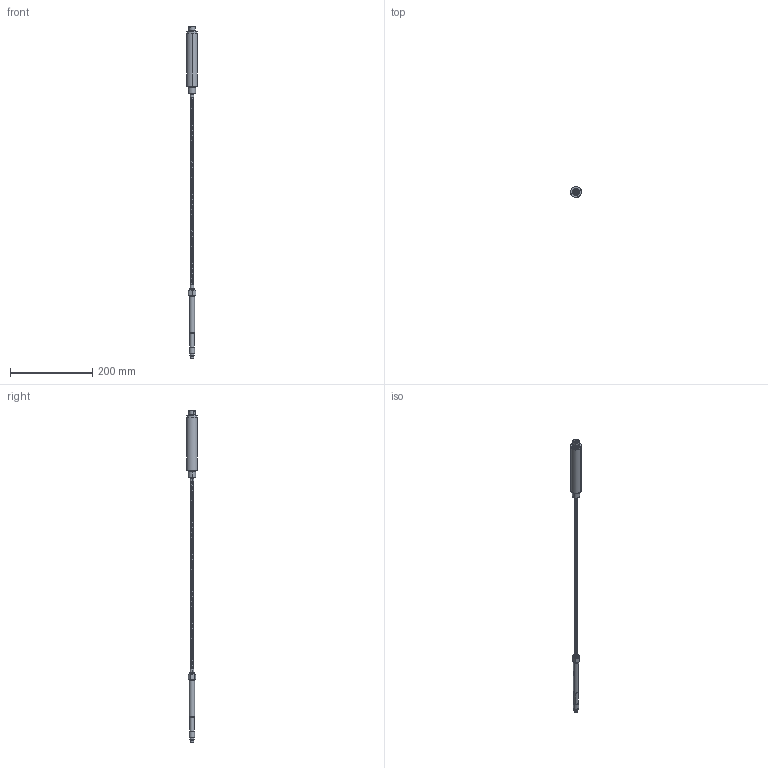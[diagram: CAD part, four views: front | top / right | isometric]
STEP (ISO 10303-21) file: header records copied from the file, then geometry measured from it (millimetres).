
FILE_DESCRIPTION (( 'STEP AP203' ), '1' );
FILE_NAME ('KE1-7-x-xxxx-1-4-D-x-P-E.STEP', '2021-02-10T09:18:36', ( '' ), ( '' ), 'SwSTEP 2.0', 'SolidWorks 2021', '' );
FILE_SCHEMA (( 'CONFIG_CONTROL_DESIGN' ));
Length unit declared in the file: millimetre
Products named in the file (1): KE1-7-x-xxxx-1-4-D-x-P-E
Bounding box: 26.5 x 26.5 x 808.27 mm (x, y, z)
Surface area: 33977.3 mm2 (no closed solid volume)
Topology: 0 solids, 18 shells, 298 faces, 794 edges, 516 vertices
Faces by surface type: cylinder 221, plane 26, cone 24, torus 24, bspline 3
Entity records: 21349 total; most frequent: CARTESIAN_POINT 14772, ORIENTED_EDGE 1522, DIRECTION 1222, EDGE_CURVE 794, VERTEX_POINT 516, AXIS2_PLACEMENT_3D 486, EDGE_LOOP 312, FACE_OUTER_BOUND 298
